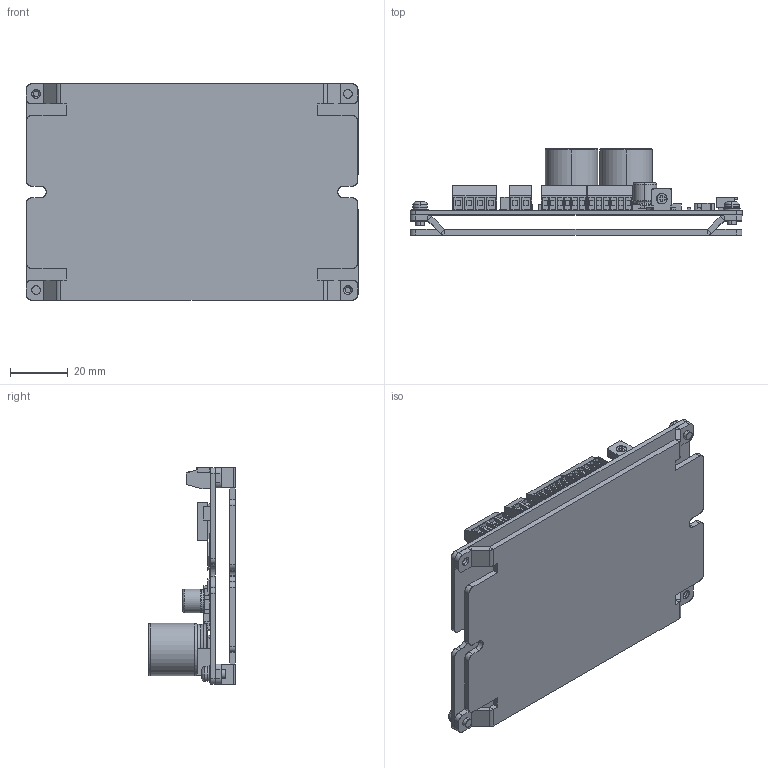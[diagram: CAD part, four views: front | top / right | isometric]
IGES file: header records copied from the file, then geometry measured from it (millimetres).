
Start section: SolidWorks IGES file using analytic representation for surfaces
Global section: file name: \\swds01\KARI\7666\PDSA-BB(侾偮偺晹昳偐傜)\PDSA-BB.IGS; native system: SolidWorks 2009; preprocessor: SolidWorks 2009; author: icad2; date: 100305.174724; units: millimetre
Bounding box: 115.02 x 30.1 x 75.02 mm (x, y, z)
Surface area: 42402.3 mm2 (no closed solid volume)
Topology: 0 solids, 0 shells, 958 faces, 7550 edges, 7550 vertices
Faces by surface type: bspline 796, revolution 162
